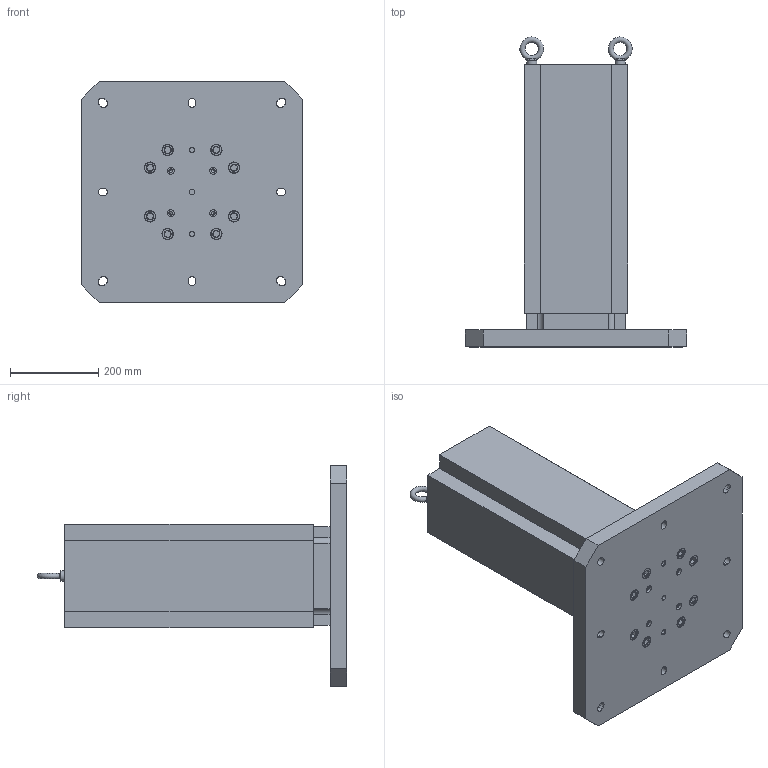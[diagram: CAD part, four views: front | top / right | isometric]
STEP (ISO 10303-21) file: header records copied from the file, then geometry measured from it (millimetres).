
FILE_DESCRIPTION (( 'STEP AP214' ), '1' );
FILE_NAME ('MTA-5004U-638_WEBSITE.STEP', '2025-08-11T12:57:14', ( '' ), ( '' ), 'SwSTEP 2.0', 'SolidWorks 2024', '' );
FILE_SCHEMA (( 'AUTOMOTIVE_DESIGN' ));
Length unit declared in the file: inch
Products named in the file (8): M6X020.SHCS_WEBSITE_91290A319; M16X065.SHCS_WEBSITE_91290A835; MTA-5004U-638_WEBSITE; RL96-5004BUA; RL96-14TC_WEBSITE; M10x020.DP_WEBSITE_91595A640; MT-4600A_MT-4600A; M12X24MM.EB (McM 3040T15)_WEBSITE_3040T15
Assembly tree (19 placements, depth 2):
  MTA-5004U-638_WEBSITE
    MT-4600A_MT-4600A
    RL96-14TC_WEBSITE
    M12X24MM.EB (McM 3040T15)_WEBSITE_3040T15  x2
    M16X065.SHCS_WEBSITE_91290A835  x8
    M10x020.DP_WEBSITE_91595A640  x2
    M6X020.SHCS_WEBSITE_91290A319  x4
    RL96-5004BUA
Bounding box: 500 x 700.88 x 500 mm (x, y, z)
Volume: 28950533.7 mm3; surface area: 1653412.6 mm2
Topology: 19 solids, 19 shells, 574 faces, 1255 edges, 778 vertices
Faces by surface type: plane 297, cylinder 159, cone 112, sphere 4, torus 2
Full cylindrical faces by diameter (mm): 5 x4, 6 x4, 6.6 x4, 8.5 x4, 10 x6, 10.025 x4, 10.2 x4, 11 x4, 12 x3, 14 x8, 16 x8, 16.02 x4, 17.5 x16, 23 x2, 24 x8, 26 x8
Entity records: 11393 total; most frequent: CARTESIAN_POINT 1938, DIRECTION 1832, ORIENTED_EDGE 1526, EDGE_CURVE 763, AXIS2_PLACEMENT_3D 693, EDGE_LOOP 568, VERTEX_POINT 549, VECTOR 446
